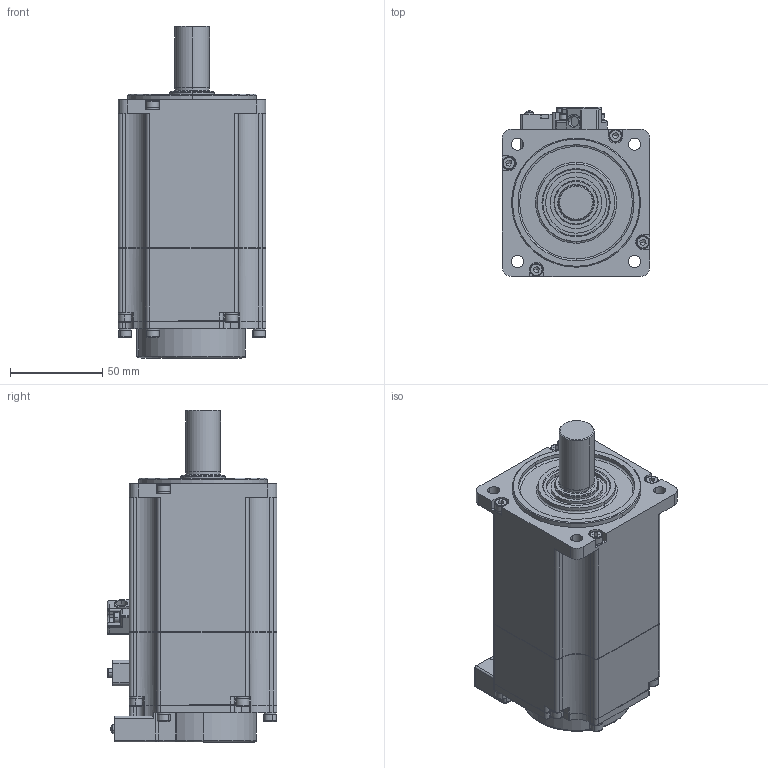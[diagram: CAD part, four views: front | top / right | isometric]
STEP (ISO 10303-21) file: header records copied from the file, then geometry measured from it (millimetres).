
FILE_DESCRIPTION (( 'STEP AP214' ), '1' );
FILE_NAME ('SME-L075B.STEP', '2020-05-20T08:08:35', ( '' ), ( '' ), 'SwSTEP 2.0', 'SolidWorks 2016', '' );
FILE_SCHEMA (( 'AUTOMOTIVE_DESIGN' ));
Length unit declared in the file: millimetre
Products named in the file (8): JIS B 1176 - M4 x 12; Encoder Cable Fix; _X2_87BA91D8_X0_ GB 6560-86 M2.5 x 10; SME-L075B(編輯); SME-L075B; 編碼器蓋; M4-12_X2_542B588A7247_X0_; _X2_87BA7D72588A7247_X0_(M4_X2_7528_X0_)
Assembly tree (11 placements, depth 3):
  SME-L075B
    SME-L075B(編輯)
    _X2_87BA91D8_X0_ GB 6560-86 M2.5 x 10  x2
    Encoder Cable Fix
    M4-12_X2_542B588A7247_X0_  x4
      JIS B 1176 - M4 x 12
      _X2_87BA7D72588A7247_X0_(M4_X2_7528_X0_)
    編碼器蓋
Bounding box: 80.07 x 92.02 x 180.2 mm (x, y, z)
Volume: 193097.3 mm3; surface area: 121780 mm2
Topology: 48 solids, 48 shells, 1264 faces, 3198 edges, 2023 vertices
Faces by surface type: plane 477, cylinder 473, cone 195, bspline 104, torus 10, sphere 5
Entity records: 45326 total; most frequent: CARTESIAN_POINT 9271, DIRECTION 5913, ORIENTED_EDGE 5640, EDGE_CURVE 2820, AXIS2_PLACEMENT_3D 2282, VERTEX_POINT 1830, VECTOR 1349, LINE 1349
